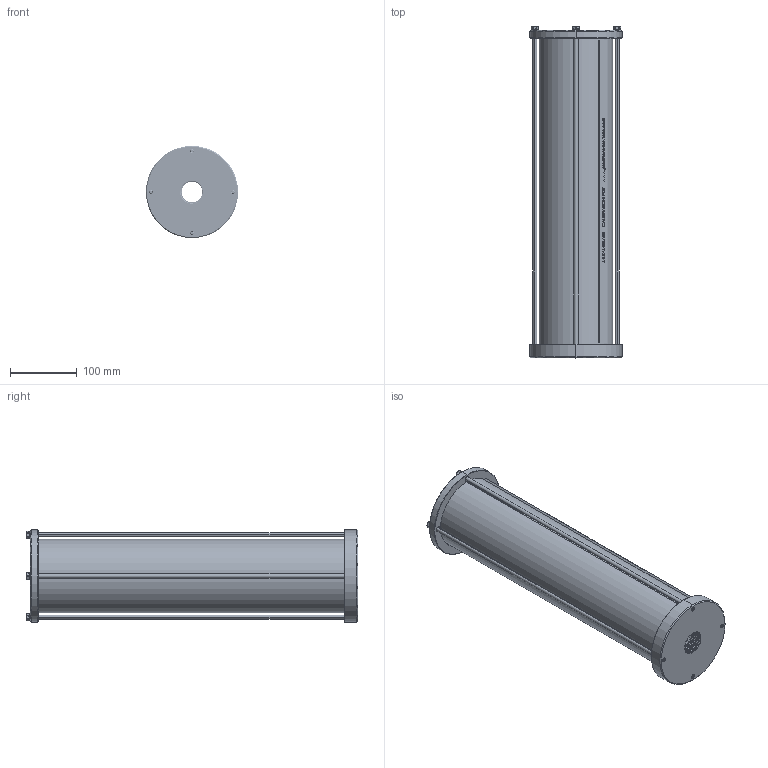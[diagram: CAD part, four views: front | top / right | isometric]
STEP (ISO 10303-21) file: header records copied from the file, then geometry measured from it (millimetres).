
FILE_DESCRIPTION (( 'STEP AP214' ), '1' );
FILE_NAME ('3.0LTR-C-11-34.STEP', '2025-08-19T14:16:37', ( '' ), ( '' ), 'SwSTEP 2.0', 'SolidWorks 2024', '' );
FILE_SCHEMA (( 'AUTOMOTIVE_DESIGN' ));
Length unit declared in the file: millimetre
Products named in the file (1): 3.0LTR-C-11-34
Bounding box: 138 x 496.32 x 138 mm (x, y, z)
Volume: 1265696.6 mm3; surface area: 454523.7 mm2
Topology: 16 solids, 16 shells, 1513 faces, 3953 edges, 2550 vertices
Faces by surface type: cylinder 533, plane 455, bspline 349, cone 88, sphere 72, torus 16
Entity records: 111619 total; most frequent: CARTESIAN_POINT 62549, ORIENTED_EDGE 7906, DIRECTION 5116, EDGE_CURVE 3953, VERTEX_POINT 2550, LINE 1828, VECTOR 1828, AXIS2_PLACEMENT_3D 1644
